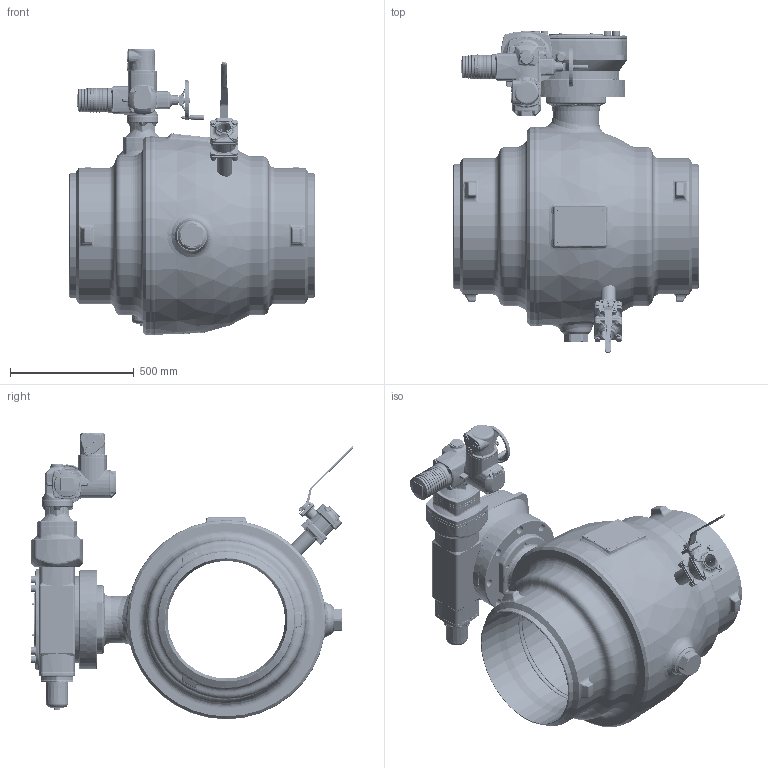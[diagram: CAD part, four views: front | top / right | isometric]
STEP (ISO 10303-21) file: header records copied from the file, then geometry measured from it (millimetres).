
FILE_DESCRIPTION((''),'2;1');
FILE_NAME('ASM0001_ASM','2026-01-28T11:09:47',('schwaba'),('KLINGER'),'CREO PARAMETRIC BY PTC INC, 2023014','CREO PARAMETRIC BY PTC INC, 2023014','');
FILE_SCHEMA(('CONFIG_CONTROL_DESIGN'));
Products named in the file (4): KHSVI_500_FR_WE_ENTL; GS200_864_F30_F10_DN600; SA07_2-6_F10_STD; ASM0001_ASM
Assembly tree (3 placements, depth 2):
  ASM0001_ASM
    KHSVI_500_FR_WE_ENTL
    GS200_864_F30_F10_DN600
    SA07_2-6_F10_STD
Bounding box: 991 x 1304.94 x 1159.09 mm (x, y, z)
Volume: 162854370.3 mm3; surface area: 10853793.7 mm2
Topology: 3 solids, 7 shells, 6801 faces, 16310 edges, 9642 vertices
Faces by surface type: plane 1764, cylinder 1620, bspline 1217, torus 1078, cone 887, sphere 131, extrusion 66, revolution 38
Entity records: 426636 total; most frequent: CARTESIAN_POINT 279044, ORIENTED_EDGE 32372, DIRECTION 28865, EDGE_CURVE 16186, AXIS2_PLACEMENT_3D 12112, VERTEX_POINT 9641, EDGE_LOOP 7183, FACE_OUTER_BOUND 6800
